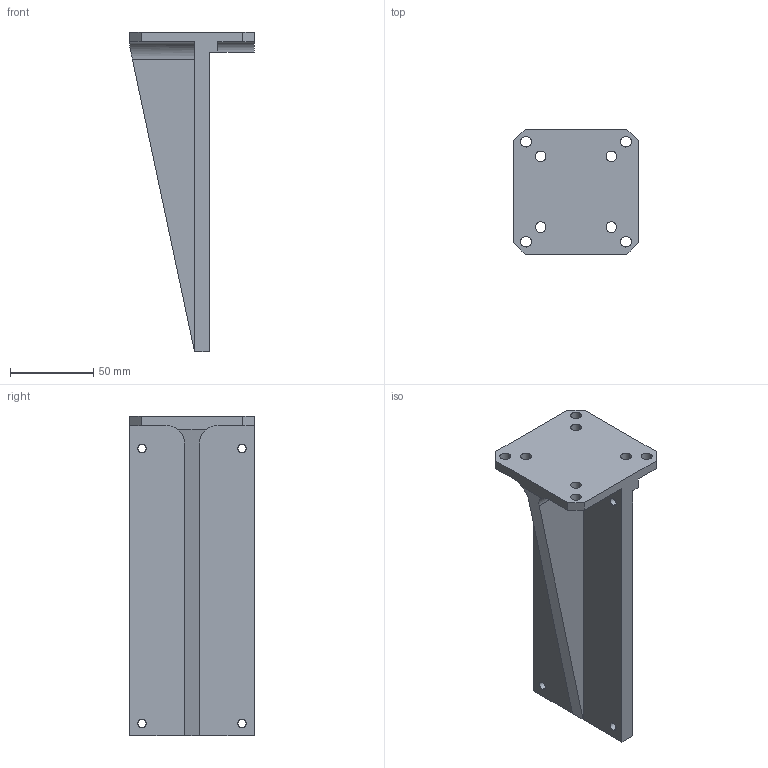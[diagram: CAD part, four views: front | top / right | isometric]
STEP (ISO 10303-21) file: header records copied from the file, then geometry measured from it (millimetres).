
FILE_DESCRIPTION (( 'STEP AP203' ), '1' );
FILE_NAME ('VH7312-Vertikalhalter-lang.STEP', '2014-07-31T07:44:52', ( '' ), ( '' ), 'SwSTEP 2.0', 'SolidWorks 2014', '' );
FILE_SCHEMA (( 'CONFIG_CONTROL_DESIGN' ));
Length unit declared in the file: millimetre
Products named in the file (1): VH7312-Vertikalhalter-lang
Bounding box: 75 x 75 x 192 mm (x, y, z)
Volume: 195112.7 mm3; surface area: 51689.9 mm2
Topology: 1 solids, 1 shells, 51 faces, 145 edges, 96 vertices
Faces by surface type: cylinder 28, plane 23
Entity records: 1804 total; most frequent: DIRECTION 303, CARTESIAN_POINT 299, ORIENTED_EDGE 290, EDGE_CURVE 145, AXIS2_PLACEMENT_3D 108, VERTEX_POINT 96, LINE 87, VECTOR 87
